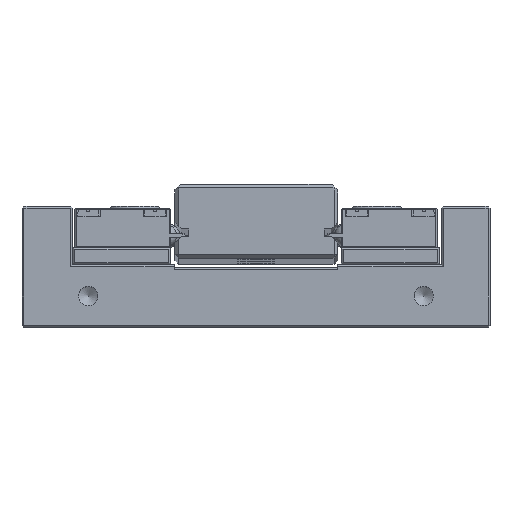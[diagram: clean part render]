
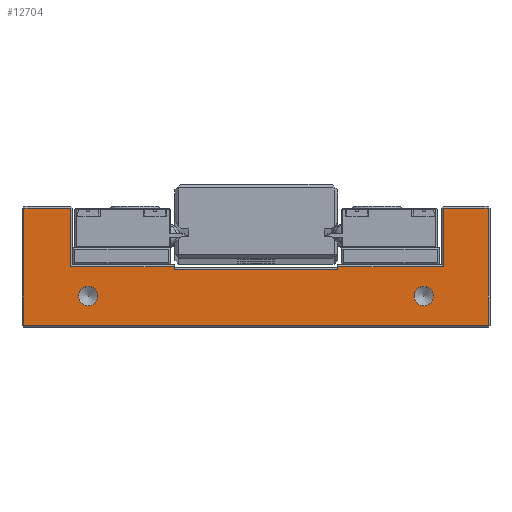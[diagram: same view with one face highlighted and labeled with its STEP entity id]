
A CAD part, top view. The second image highlights one B-rep face of the part: STEP entity #12704.
In plain terms, the highlighted planar face has unit normal (0, 0, 1).
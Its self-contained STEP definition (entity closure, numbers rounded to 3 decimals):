
#419=FACE_BOUND('',#2319,.T.);
#420=FACE_BOUND('',#2320,.T.);
#938=PLANE('',#13792);
#1556=FACE_OUTER_BOUND('',#2318,.T.);
#2318=EDGE_LOOP('',(#10663,#10664,#10665,#10666,#10667,#10668,#10669,#10670,
#10671,#10672,#10673,#10674));
#2319=EDGE_LOOP('',(#10675));
#2320=EDGE_LOOP('',(#10676));
#3328=LINE('',#20938,#4366);
#3400=LINE('',#21152,#4438);
#3429=LINE('',#21206,#4467);
#3431=LINE('',#21209,#4469);
#3433=LINE('',#21213,#4471);
#3434=LINE('',#21215,#4472);
#3436=LINE('',#21219,#4474);
#3437=LINE('',#21221,#4475);
#3440=LINE('',#21226,#4478);
#3442=LINE('',#21230,#4480);
#3444=LINE('',#21234,#4482);
#3445=LINE('',#21236,#4483);
#4366=VECTOR('',#16346,10.);
#4438=VECTOR('',#16570,10.);
#4467=VECTOR('',#16633,10.);
#4469=VECTOR('',#16637,10.);
#4471=VECTOR('',#16643,10.);
#4472=VECTOR('',#16646,10.);
#4474=VECTOR('',#16652,10.);
#4475=VECTOR('',#16655,10.);
#4478=VECTOR('',#16660,10.);
#4480=VECTOR('',#16664,10.);
#4482=VECTOR('',#16670,10.);
#4483=VECTOR('',#16673,10.);
#4940=CIRCLE('',#13793,2.459);
#4941=CIRCLE('',#13794,2.459);
#5893=VERTEX_POINT('',#20931);
#5896=VERTEX_POINT('',#20936);
#5954=VERTEX_POINT('',#21117);
#5959=VERTEX_POINT('',#21135);
#5961=VERTEX_POINT('',#21149);
#5962=VERTEX_POINT('',#21151);
#5963=VERTEX_POINT('',#21155);
#5965=VERTEX_POINT('',#21167);
#5966=VERTEX_POINT('',#21172);
#5968=VERTEX_POINT('',#21190);
#5971=VERTEX_POINT('',#21225);
#5972=VERTEX_POINT('',#21229);
#5973=VERTEX_POINT('',#21237);
#5974=VERTEX_POINT('',#21239);
#7460=EDGE_CURVE('',#5896,#5893,#3328,.T.);
#7566=EDGE_CURVE('',#5961,#5962,#3400,.T.);
#7595=EDGE_CURVE('',#5965,#5968,#3429,.T.);
#7597=EDGE_CURVE('',#5968,#5966,#3431,.T.);
#7599=EDGE_CURVE('',#5966,#5963,#3433,.T.);
#7600=EDGE_CURVE('',#5962,#5965,#3434,.T.);
#7602=EDGE_CURVE('',#5963,#5959,#3436,.T.);
#7603=EDGE_CURVE('',#5959,#5954,#3437,.T.);
#7606=EDGE_CURVE('',#5954,#5971,#3440,.T.);
#7608=EDGE_CURVE('',#5971,#5972,#3442,.T.);
#7610=EDGE_CURVE('',#5896,#5972,#3444,.T.);
#7611=EDGE_CURVE('',#5961,#5893,#3445,.T.);
#7612=EDGE_CURVE('',#5973,#5973,#4940,.T.);
#7613=EDGE_CURVE('',#5974,#5974,#4941,.T.);
#10663=ORIENTED_EDGE('',*,*,#7610,.T.);
#10664=ORIENTED_EDGE('',*,*,#7608,.F.);
#10665=ORIENTED_EDGE('',*,*,#7606,.F.);
#10666=ORIENTED_EDGE('',*,*,#7603,.F.);
#10667=ORIENTED_EDGE('',*,*,#7602,.F.);
#10668=ORIENTED_EDGE('',*,*,#7599,.F.);
#10669=ORIENTED_EDGE('',*,*,#7597,.F.);
#10670=ORIENTED_EDGE('',*,*,#7595,.F.);
#10671=ORIENTED_EDGE('',*,*,#7600,.F.);
#10672=ORIENTED_EDGE('',*,*,#7566,.F.);
#10673=ORIENTED_EDGE('',*,*,#7611,.T.);
#10674=ORIENTED_EDGE('',*,*,#7460,.F.);
#10675=ORIENTED_EDGE('',*,*,#7612,.T.);
#10676=ORIENTED_EDGE('',*,*,#7613,.T.);
#12704=ADVANCED_FACE('',(#1556,#419,#420),#938,.T.);
#13792=AXIS2_PLACEMENT_3D('',#21235,#16671,#16672);
#13793=AXIS2_PLACEMENT_3D('',#21238,#16674,#16675);
#13794=AXIS2_PLACEMENT_3D('',#21240,#16676,#16677);
#16346=DIRECTION('',(1.,0.,0.));
#16570=DIRECTION('',(1.,0.,0.));
#16633=DIRECTION('',(1.,0.,0.));
#16637=DIRECTION('',(0.,-1.,0.));
#16643=DIRECTION('',(-1.,0.,0.));
#16646=DIRECTION('',(0.,1.,0.));
#16652=DIRECTION('',(0.,1.,0.));
#16655=DIRECTION('',(1.,0.,0.));
#16660=DIRECTION('',(0.,-1.,0.));
#16664=DIRECTION('',(1.,0.,0.));
#16670=DIRECTION('',(0.,1.,0.));
#16671=DIRECTION('center_axis',(0.,0.,1.));
#16672=DIRECTION('ref_axis',(1.,0.,0.));
#16673=DIRECTION('',(0.,-1.,0.));
#16674=DIRECTION('center_axis',(0.,0.,-1.));
#16675=DIRECTION('ref_axis',(-1.,0.,0.));
#16676=DIRECTION('center_axis',(0.,0.,-1.));
#16677=DIRECTION('ref_axis',(-1.,0.,0.));
#20931=CARTESIAN_POINT('',(23.66,11.195,52.5));
#20936=CARTESIAN_POINT('',(-18.34,11.195,52.5));
#20938=CARTESIAN_POINT('',(13.16,11.195,52.5));
#21117=CARTESIAN_POINT('',(-44.84,26.995,52.5));
#21135=CARTESIAN_POINT('',(-56.84,26.995,52.5));
#21149=CARTESIAN_POINT('',(23.66,11.995,52.5));
#21151=CARTESIAN_POINT('',(50.66,11.995,52.5));
#21152=CARTESIAN_POINT('',(26.41,11.995,52.5));
#21155=CARTESIAN_POINT('',(-56.84,-3.005,52.5));
#21167=CARTESIAN_POINT('',(50.66,26.995,52.5));
#21172=CARTESIAN_POINT('',(62.16,-3.005,52.5));
#21190=CARTESIAN_POINT('',(62.16,26.995,52.5));
#21206=CARTESIAN_POINT('',(32.66,26.995,52.5));
#21209=CARTESIAN_POINT('',(62.16,4.245,52.5));
#21213=CARTESIAN_POINT('',(-27.34,-3.005,52.5));
#21215=CARTESIAN_POINT('',(50.66,19.745,52.5));
#21219=CARTESIAN_POINT('',(-56.84,19.745,52.5));
#21221=CARTESIAN_POINT('',(-20.84,26.995,52.5));
#21225=CARTESIAN_POINT('',(-44.84,11.995,52.5));
#21226=CARTESIAN_POINT('',(-44.84,12.245,52.5));
#21229=CARTESIAN_POINT('',(-18.34,11.995,52.5));
#21230=CARTESIAN_POINT('',(-7.84,11.995,52.5));
#21234=CARTESIAN_POINT('',(-18.34,11.695,52.5));
#21235=CARTESIAN_POINT('Origin',(2.66,11.995,52.5));
#21236=CARTESIAN_POINT('',(23.66,12.495,52.5));
#21237=CARTESIAN_POINT('',(-37.881,4.495,52.5));
#21238=CARTESIAN_POINT('Origin',(-40.34,4.495,52.5));
#21239=CARTESIAN_POINT('',(48.119,4.495,52.5));
#21240=CARTESIAN_POINT('Origin',(45.66,4.495,52.5));
